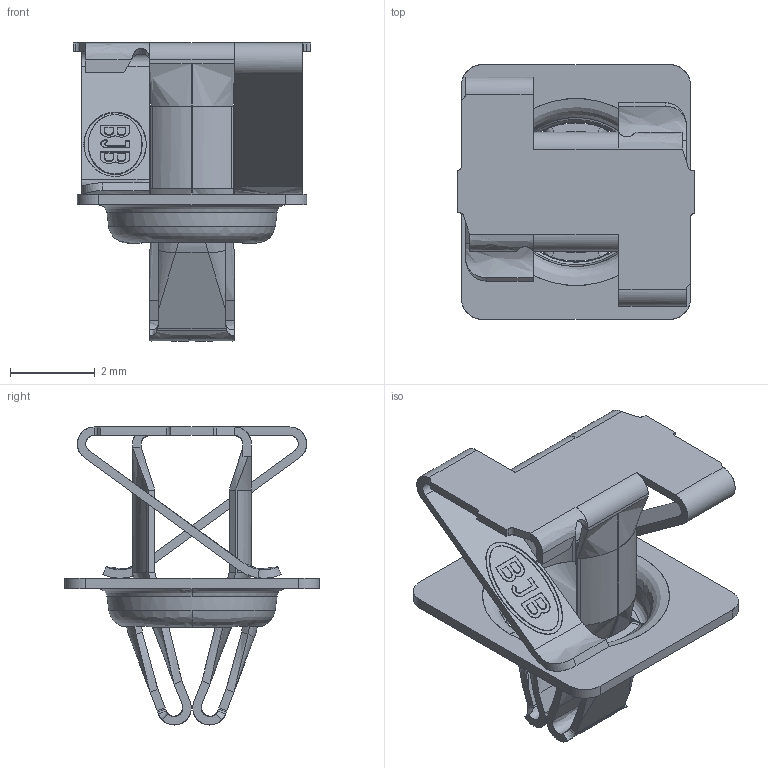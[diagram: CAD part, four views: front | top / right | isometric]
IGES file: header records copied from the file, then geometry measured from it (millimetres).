
Start section: C
Global section: file name: 01Z-202-0N.igs; native system:  By UGS Corp.; preprocessor: XPlus GENERIC/IGES 3.0; author: Author; organization: Title; date: 20161007.075401; units: inch
Bounding box: 5.6 x 6 x 7.02 mm (x, y, z)
Surface area: 242.8 mm2 (no closed solid volume)
Topology: 0 solids, 0 shells, 305 faces, 1552 edges, 1552 vertices
Faces by surface type: bspline 305
